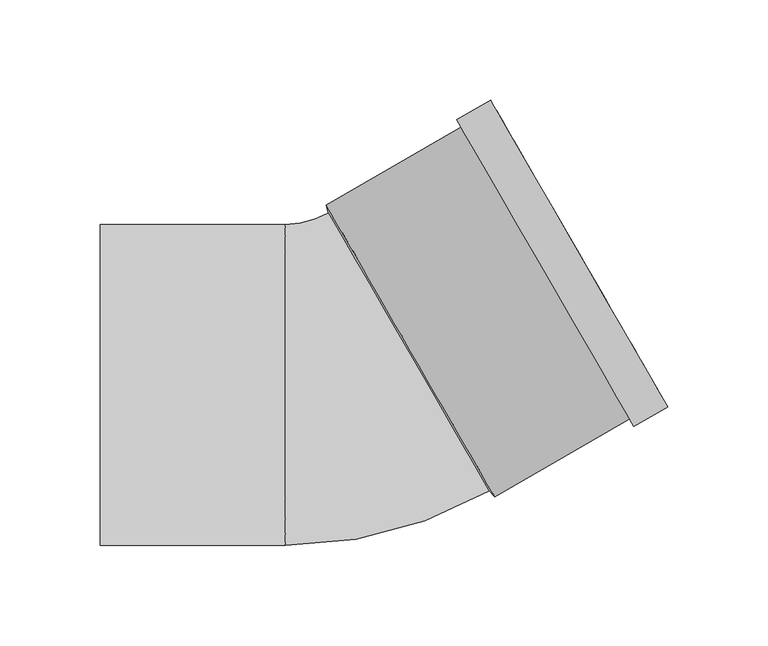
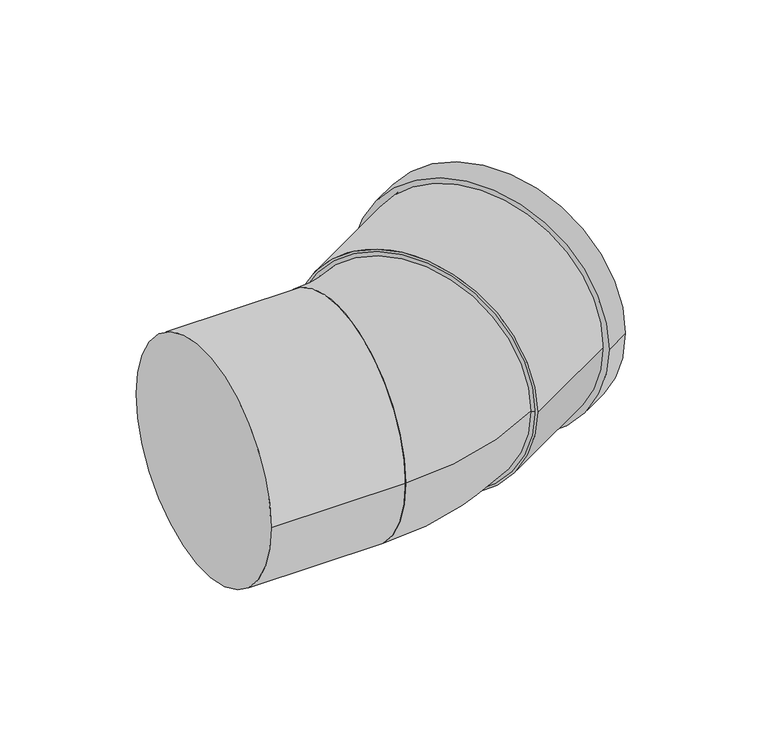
"""IFC4 building model written with IfcOpenShell, lengths in millimetres: pipe fitting geometry, Superdrain SKB Bend : Superdrain SKB Bend."""

import ifcopenshell
import ifcopenshell.guid

model = None  # the IFC model being written
_history = None  # IfcOwnerHistory: only IFC2X3 demands one
_inside = {}  # id of a spatial element -> (the spatial element, [elements in it])
_under = {}  # id of a project, library or spatial element -> (it, [spatial elements below it])
_declared = {}  # id of a project -> (the project, [libraries it declares])
_typed = {}  # id of a type object -> (the type object, [elements of that type])
_made_of = {}  # id of a material, layer set ... -> (it, [elements and type objects made of it])


def new_model(schema):
    """Start an empty IFC model of exactly this schema.

    Asked for "IFC4X3", IfcOpenShell would pick the latest addendum, in which some entities
    have other attributes; the version numbers below select the first issue.
    IFC2X3 requires an IfcOwnerHistory on every rooted entity: one is made here for all.
    """
    global model, _history
    if schema == "IFC4X3":
        model = ifcopenshell.file(schema_version=(4, 3, 0, 0))
    else:
        model = ifcopenshell.file(schema=schema)
    _inside.clear()
    _under.clear()
    _declared.clear()
    _typed.clear()
    _made_of.clear()
    _history = None
    if model.schema == "IFC2X3":
        org = make("IfcOrganization", Name="unknown")
        user = make(
            "IfcPersonAndOrganization",
            ThePerson=make("IfcPerson", FamilyName="unknown"),
            TheOrganization=org,
        )
        app = make(
            "IfcApplication",
            ApplicationDeveloper=org,
            Version="unknown",
            ApplicationFullName="unknown",
            ApplicationIdentifier="unknown",
        )
        _history = make(
            "IfcOwnerHistory",
            OwningUser=user,
            OwningApplication=app,
            ChangeAction="ADDED",
            CreationDate=0,
        )
    return model


def make(cls, **values):
    """One entity of the class cls with the attributes given. An attribute that is None is left unset."""
    return model.create_entity(
        cls, **{name: value for name, value in values.items() if value is not None}
    )


def rooted(cls, **values):
    """An entity with a GlobalId (a new one), such as an element, a storey or a relation."""
    return make(cls, GlobalId=ifcopenshell.guid.new(), OwnerHistory=_history, **values)


def si_unit(unit_type, name, prefix=None):
    """IfcSIUnit, for example si_unit("LENGTHUNIT", "METRE", prefix="MILLI")."""
    return make("IfcSIUnit", UnitType=unit_type, Prefix=prefix, Name=name)


def assignment(units):
    """IfcUnitAssignment: the units of a project."""
    return None if units is None else make("IfcUnitAssignment", Units=units)


def point(xyz):
    """IfcCartesianPoint."""
    return None if xyz is None else make("IfcCartesianPoint", Coordinates=xyz)


def direction(xyz):
    """IfcDirection."""
    return None if xyz is None else make("IfcDirection", DirectionRatios=xyz)


def frame(location, z_axis=None, x_axis=None):
    """IfcAxis2Placement3D, a coordinate frame: its origin and axes. An axis left out is left unset."""
    return make(
        "IfcAxis2Placement3D",
        Location=point(location),
        Axis=direction(z_axis),
        RefDirection=direction(x_axis),
    )


def frame_2d(location, x_axis=None):
    """IfcAxis2Placement2D, a coordinate frame in the plane: its origin and x axis."""
    return make(
        "IfcAxis2Placement2D", Location=point(location), RefDirection=direction(x_axis)
    )


def origin():
    """The frame at (0, 0, 0) with its axes left unset."""
    return frame((0.0, 0.0, 0.0))


def origin_2d():
    """The frame at (0, 0) in the plane with its x axis left unset."""
    return frame_2d((0.0, 0.0))


def place(relative_to, where):
    """IfcLocalPlacement: puts the frame where relative to a parent placement (None: the world)."""
    return make(
        "IfcLocalPlacement", PlacementRelTo=relative_to, RelativePlacement=where
    )


def context(
    kind, dimensions, precision=None, world=None, true_north=None, identifier=None
):
    """IfcGeometricRepresentationContext, for example the 3D "Model" context."""
    return make(
        "IfcGeometricRepresentationContext",
        ContextIdentifier=identifier,
        ContextType=kind,
        CoordinateSpaceDimension=dimensions,
        Precision=precision,
        WorldCoordinateSystem=world,
        TrueNorth=true_north,
    )


def project(units=None, contexts=None):
    """IfcProject with its units and contexts."""
    return rooted(
        "IfcProject",
        Name="project",
        RepresentationContexts=contexts,
        UnitsInContext=assignment(units),
    )


def spatial(cls, under=None, at=None, **own):
    """A site, building, storey or space (cls), placed at a placement, below another one or the project."""
    s = rooted(cls, ObjectPlacement=at, **own)
    if under is not None:
        _under.setdefault(under.id(), (under, []))[1].append(s)
    return s


def polyline(points):
    """IfcPolyline through the points."""
    return make("IfcPolyline", Points=[point(p) for p in points])


def circle_curve(where, radius):
    """IfcCircle in the frame where."""
    return make("IfcCircle", Position=where, Radius=radius)


def ellipse_curve(where, semi_axis1, semi_axis2):
    """IfcEllipse in the frame where."""
    return make(
        "IfcEllipse", Position=where, SemiAxis1=semi_axis1, SemiAxis2=semi_axis2
    )


def trimmed(basis, trim1, trim2, sense, master):
    """IfcTrimmedCurve: the piece of a basis curve between two trims."""
    return make(
        "IfcTrimmedCurve",
        BasisCurve=basis,
        Trim1=trim1,
        Trim2=trim2,
        SenseAgreement=sense,
        MasterRepresentation=master,
    )


def segment(curve, same_sense, transition):
    """IfcCompositeCurveSegment."""
    return make(
        "IfcCompositeCurveSegment",
        Transition=transition,
        SameSense=same_sense,
        ParentCurve=curve,
    )


def composite_curve(segments, self_intersect=None):
    """IfcCompositeCurve: segments joined end to end."""
    return make("IfcCompositeCurve", Segments=segments, SelfIntersect=self_intersect)


def outline(outer, holes=None, kind="AREA"):
    """IfcArbitraryClosedProfileDef: a profile drawn as a closed curve; with holes, ...WithVoids."""
    if holes is None:
        return make("IfcArbitraryClosedProfileDef", ProfileType=kind, OuterCurve=outer)
    return make(
        "IfcArbitraryProfileDefWithVoids",
        ProfileType=kind,
        OuterCurve=outer,
        InnerCurves=holes,
    )


def extrude(swept, where, along, depth):
    """IfcExtrudedAreaSolid: the profile swept, set in the frame where, extruded along a direction by depth."""
    return make(
        "IfcExtrudedAreaSolid",
        SweptArea=swept,
        Position=where,
        ExtrudedDirection=direction(along),
        Depth=depth,
    )


def shape(context_of_items, identifier, shape_type, items):
    """IfcShapeRepresentation: the items that make up one representation, for example the "Body"."""
    return make(
        "IfcShapeRepresentation",
        ContextOfItems=context_of_items,
        RepresentationIdentifier=identifier,
        RepresentationType=shape_type,
        Items=items,
    )


def source(mapping_origin, context_of_items, identifier, shape_type, items):
    """IfcRepresentationMap: a shape defined once, which mapped items show again and again."""
    return make(
        "IfcRepresentationMap",
        MappingOrigin=mapping_origin,
        MappedRepresentation=shape(context_of_items, identifier, shape_type, items),
    )


def transform(
    local_origin,
    x_axis=None,
    y_axis=None,
    z_axis=None,
    scale=None,
    scale2=None,
    scale3=None,
    uniform=True,
):
    """IfcCartesianTransformationOperator3D, or its non-uniform kind. x_axis, y_axis, z_axis: its Axis1, 2, 3."""
    if uniform:
        return make(
            "IfcCartesianTransformationOperator3D",
            Axis1=direction(x_axis),
            Axis2=direction(y_axis),
            LocalOrigin=point(local_origin),
            Scale=scale,
            Axis3=direction(z_axis),
        )
    return make(
        "IfcCartesianTransformationOperator3DnonUniform",
        Axis1=direction(x_axis),
        Axis2=direction(y_axis),
        LocalOrigin=point(local_origin),
        Scale=scale,
        Axis3=direction(z_axis),
        Scale2=scale2,
        Scale3=scale3,
    )


def mapped(mapping_source, mapping_target):
    """IfcMappedItem: shows the shape of a source again, moved by a transform."""
    return make(
        "IfcMappedItem", MappingSource=mapping_source, MappingTarget=mapping_target
    )


def made_of(thing, what):
    """Note that an element or type object is made of a material, layer set ...; save() writes the relation."""
    if what is not None:
        _made_of.setdefault(what.id(), (what, []))[1].append(thing)
    return thing


def element(
    cls,
    number,
    at=None,
    inside=None,
    cuts=None,
    type_object=None,
    material=None,
    context=None,
    identifier="Body",
    shape_type=None,
    held_by="IfcProductDefinitionShape",
    body=None,
    shapes=None,
    **own,
):
    """One element of the class cls, such as IfcWall. Its Tag is "e" and its number.

    at: its placement. inside: the storey or other place that contains it. cuts: it is an
    opening in that element (IfcRelVoidsElement). A single representation is given by context,
    identifier, shape_type and body (its items); several are given by shapes. held_by: the class
    of the entity that holds the representations. save() writes the other relations.
    """
    e = rooted(cls, Tag="e%d" % number, ObjectPlacement=at, **own)
    if body is not None:
        shapes = [shape(context, identifier, shape_type, body)]
    if shapes is not None:
        e.Representation = make(held_by, Representations=shapes)
    if inside is not None:
        _inside.setdefault(inside.id(), (inside, []))[1].append(e)
    if cuts is not None:
        rooted(
            "IfcRelVoidsElement", RelatingBuildingElement=cuts, RelatedOpeningElement=e
        )
    if type_object is not None:
        _typed.setdefault(type_object.id(), (type_object, []))[1].append(e)
    return made_of(e, material)


def aggregate(whole, parts):
    """IfcRelAggregates: a whole, such as a stair, and the parts it consists of."""
    return rooted("IfcRelAggregates", RelatingObject=whole, RelatedObjects=parts)


def save(model, path):
    """Write the relations noted so far, then the file.

    IfcRelAggregates (storeys below a building ...), IfcRelContainedInSpatialStructure (elements
    in a storey), IfcRelDefinesByType, IfcRelAssociatesMaterial and IfcRelDeclares: one each for
    every whole, place, type object, material and project.
    """
    for whole, parts in _under.values():
        aggregate(whole, parts)
    for where, things in _inside.values():
        rooted(
            "IfcRelContainedInSpatialStructure",
            RelatedElements=things,
            RelatingStructure=where,
        )
    for kind, things in _typed.values():
        rooted("IfcRelDefinesByType", RelatedObjects=things, RelatingType=kind)
    for what, things in _made_of.values():
        rooted("IfcRelAssociatesMaterial", RelatedObjects=things, RelatingMaterial=what)
    for by, libraries in _declared.values():
        rooted("IfcRelDeclares", RelatingContext=by, RelatedDefinitions=libraries)
    model.write(path)


def plane_surface(at):
    """IfcPlane: the flat surface through the origin of the frame at, square to its z axis."""
    return make("IfcPlane", Position=at)


def revolved_surface(curve, axis_point, axis_direction):
    """IfcSurfaceOfRevolution: the curve turned about the line through axis_point along axis_direction."""
    return make(
        "IfcSurfaceOfRevolution",
        SweptCurve=make("IfcArbitraryOpenProfileDef", ProfileType="CURVE", Curve=curve),
        AxisPosition=make("IfcAxis1Placement", Location=point(axis_point), Axis=direction(axis_direction)),
    )


def advanced_brep(points, edges, surfaces, faces):
    """IfcAdvancedBrep: a solid bounded by faces that lie on surfaces and meet in shared edges.

    An edge is (start, end): straight between two places in points (the first is 0);
    or (start, end, curve); or (start, end, curve, False) where it runs against its curve.
    A face is (place in surfaces, loops), or (place, loops, False) where it looks against
    its surface's normal. A loop lists edges by number (the first is 1), with a minus sign
    where the edge is run from its end to its start. The first loop is the outer one.
    """
    corners = [point(p) for p in points]
    vertices = [make("IfcVertexPoint", VertexGeometry=c) for c in corners]
    made = []
    for start, end, *more in edges:
        made.append(
            make(
                "IfcEdgeCurve",
                EdgeStart=vertices[start],
                EdgeEnd=vertices[end],
                EdgeGeometry=more[0] if more else make("IfcPolyline", Points=[corners[start], corners[end]]),
                SameSense=more[1] if len(more) > 1 else True,
            )
        )
    hull = []
    for where, loops, *sense in faces:
        bounds = []
        for j, loop in enumerate(loops):
            ring = [make("IfcOrientedEdge", EdgeElement=made[abs(k) - 1], Orientation=k > 0) for k in loop]
            bounds.append(
                make(
                    "IfcFaceOuterBound" if j == 0 else "IfcFaceBound",
                    Bound=make("IfcEdgeLoop", EdgeList=ring),
                    Orientation=True,
                )
            )
        hull.append(make("IfcAdvancedFace", Bounds=bounds, FaceSurface=surfaces[where], SameSense=sense[0] if sense else True))
    return make("IfcAdvancedBrep", Outer=make("IfcClosedShell", CfsFaces=hull))


def pipe_fitting_fd9ef2f7(model_context):
    return source(origin(), model_context, "Body", "SolidModel", [
        advanced_brep(
        [(68.5788383, -52.7820323, 0.0), (-11.4211617, 85.7820323, 0.0), (-33.0, -80.0, 0.0), (-33.0, 80.0, 0.0)],
        [
            (0, 1, circle_curve(frame((28.5788383, 16.5, 0.0), z_axis=(0.8660254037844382, 0.5000000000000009, 0.0), x_axis=(-0.5000000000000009, 0.8660254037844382, 0.0)), 80.0)),
            (1, 0, circle_curve(frame((28.5788383, 16.5, 0.0), z_axis=(0.8660254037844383, 0.5000000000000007, 0.0), x_axis=(-0.5000000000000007, 0.8660254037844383, 0.0)), 80.0)),
            (2, 3, circle_curve(frame((-33.0, 0.0, 0.0), z_axis=(-1.0, 0.0, 0.0), x_axis=(0.0, 1.0, 0.0)), 80.0)),
            (3, 2, circle_curve(frame((-33.0, 0.0, 0.0), z_axis=(-1.0, 0.0, 0.0), x_axis=(0.0, 1.0, 0.0)), 80.0)),
            (3, 1, circle_curve(frame((-33.0, 123.1576766, 0.0), z_axis=(0.0, 0.0, 1.0), x_axis=(1.0, 0.0, 0.0)), 43.1576766)),
            (0, 2, circle_curve(frame((-33.0, 123.1576766, 0.0), z_axis=(0.0, 0.0, -1.0), x_axis=(1.0, 0.0, 0.0)), 203.1576766)),
        ],
        [
            plane_surface(frame((28.5788383, 16.5, 0.0), z_axis=(0.8660254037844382, 0.5000000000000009, 0.0), x_axis=(0.0, 0.0, -1.0))),
            plane_surface(frame((-33.0, 0.0, 0.0), z_axis=(-1.0, 0.0, 0.0), x_axis=(0.0, 0.0, -1.0))),
            revolved_surface(trimmed(ellipse_curve(frame((90.1576766, 123.1576766, 0.0), z_axis=(0.0, -1.0, 0.0), x_axis=(-1.0, 0.0, 0.0)), 80.0, 80.0), [point((10.1576766, 123.1576766, 0.0))], [point((170.1576766, 123.1576766, 0.0))], True, "CARTESIAN"), (-33.0, 123.1576766, 0.0), (0.0, 0.0, 1.0)),
            revolved_surface(trimmed(ellipse_curve(frame((90.1576766, 123.1576766, 0.0), z_axis=(0.0, -1.0, 0.0), x_axis=(-1.0, 0.0, 0.0)), 80.0, 80.0), [point((170.1576766, 123.1576766, 0.0))], [point((10.1576766, 123.1576766, 0.0))], True, "CARTESIAN"), (-33.0, 123.1576766, 0.0), (0.0, 0.0, 1.0)),
        ],
        [
            (0, [[1, 2]]),
            (1, [[3, 4]]),
            (2, [[-4, 5, -1, 6]]),
            (3, [[-3, -6, -2, -5]]),
        ],
    ),
        extrude(outline(composite_curve([segment(trimmed(circle_curve(origin_2d(), 84.0), [point((0.0, 84.0))], [point((0.0, -84.0))], False, "CARTESIAN"), True, "CONTINUOUS"), segment(trimmed(circle_curve(origin_2d(), 84.0), [point((0.0, -84.0))], [point((0.0, 84.0))], False, "CARTESIAN"), True, "CONTINUOUS")], self_intersect=False), holes=[composite_curve([segment(trimmed(circle_curve(origin_2d(), 80.0), [point((0.0, 80.0))], [point((0.0, -80.0))], True, "CARTESIAN"), True, "CONTINUOUS"), segment(trimmed(circle_curve(origin_2d(), 80.0), [point((0.0, -80.0))], [point((0.0, 80.0))], True, "CARTESIAN"), True, "CONTINUOUS")], self_intersect=False)]), frame((29.4448637, 17.0, 0.0), z_axis=(0.866025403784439, 0.4999999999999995, 0.0), x_axis=(0.0, 0.0, 1.0)), (0.0, 0.0, 1.0), 97.0),
        extrude(outline(composite_curve([segment(trimmed(circle_curve(origin_2d(), 88.2), [point((0.0, -88.2))], [point((0.0, 88.2))], False, "CARTESIAN"), True, "CONTINUOUS"), segment(trimmed(circle_curve(origin_2d(), 88.2), [point((0.0, 88.2))], [point((0.0, -88.2))], False, "CARTESIAN"), True, "CONTINUOUS")], self_intersect=False), holes=[composite_curve([segment(trimmed(circle_curve(origin_2d(), 80.0), [point((0.0, -80.0))], [point((0.0, 80.0))], True, "CARTESIAN"), True, "CONTINUOUS"), segment(trimmed(circle_curve(origin_2d(), 80.0), [point((0.0, 80.0))], [point((0.0, -80.0))], True, "CARTESIAN"), True, "CONTINUOUS")], self_intersect=False)]), frame((96.6484351, 55.8, 0.0), z_axis=(0.866025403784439, 0.4999999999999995, 0.0), x_axis=(0.0, 0.0, 1.0)), (0.0, 0.0, 1.0), 19.4),
        advanced_brep(
        [(71.4448637, -55.7461339, 0.0), (-12.5551363, 89.7461339, 0.0), (68.5788383, -52.7820323, 0.0), (-11.4211617, 85.7820323, 0.0)],
        [
            (0, 1, circle_curve(frame((29.4448637, 17.0, 0.0), z_axis=(0.8660254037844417, 0.4999999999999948, 0.0), x_axis=(0.4999999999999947, -0.8660254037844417, 0.0)), 84.0)),
            (1, 0, circle_curve(frame((29.4448637, 17.0, 0.0), z_axis=(0.8660254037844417, 0.4999999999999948, 0.0), x_axis=(-0.4999999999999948, 0.8660254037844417, 0.0)), 84.0)),
            (2, 3, circle_curve(frame((28.5788383, 16.5, 0.0), z_axis=(-0.8660254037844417, -0.4999999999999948, 0.0), x_axis=(-0.4999999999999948, 0.8660254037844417, 0.0)), 80.0)),
            (3, 2, circle_curve(frame((28.5788383, 16.5, 0.0), z_axis=(-0.8660254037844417, -0.4999999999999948, 0.0), x_axis=(0.4999999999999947, -0.8660254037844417, 0.0)), 80.0)),
            (3, 1),
            (0, 2),
        ],
        [
            plane_surface(frame((29.4448637, 17.0, 0.0), z_axis=(0.8660254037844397, 0.4999999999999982, 0.0), x_axis=(0.0, 0.0, -1.0))),
            plane_surface(frame((28.5788383, 16.5, 0.0), z_axis=(-0.8660254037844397, -0.4999999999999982, 0.0), x_axis=(0.0, 0.0, -1.0))),
            revolved_surface(polyline([(-11.421161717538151, 85.78203233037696, 0.0), (-12.555136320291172, 89.74613397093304, 0.0)]), (11.2583302, 6.5, 0.0), (0.8660254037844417, 0.4999999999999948, 0.0)),
            revolved_surface(polyline([(68.57883827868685, -52.78203226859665, 0.0), (71.4448637, -55.7461339, 0.0)]), (11.2583302, 6.5, 0.0), (0.8660254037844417, 0.4999999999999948, 0.0)),
        ],
        [
            (0, [[1, 2]]),
            (1, [[3, 4]]),
            (2, [[-4, 5, -1, 6]]),
            (3, [[-3, -6, -2, -5]]),
        ],
    ),
        extrude(outline(composite_curve([segment(trimmed(circle_curve(origin_2d(), 80.0), [point((-80.0, 0.0))], [point((80.0, 0.0))], False, "CARTESIAN"), True, "CONTINUOUS"), segment(trimmed(circle_curve(origin_2d(), 80.0), [point((80.0, 0.0))], [point((-80.0, 0.0))], False, "CARTESIAN"), True, "CONTINUOUS")], self_intersect=False)), frame((-125.0, 0.0, 0.0), z_axis=(1.0, 0.0, 0.0), x_axis=(0.0, 1.0, 0.0)), (0.0, 0.0, 1.0), 92.0),
    ])


if __name__ == "__main__":
    model = new_model("IFC4")
    model_context = context("Model", 3, world=origin())
    ifc_project = project(units=[si_unit("LENGTHUNIT", "METRE", prefix="MILLI")], contexts=[model_context])
    site = spatial("IfcSite", under=ifc_project)
    building = spatial("IfcBuilding", under=site)
    placement = place(None, origin())
    pipe_fitting_shape = pipe_fitting_fd9ef2f7(model_context)
    element("IfcPipeFitting", 1, ObjectType="Superdrain SKB Bend : Superdrain SKB Bend", at=placement, inside=building, context=model_context, shape_type="MappedRepresentation", body=[
        mapped(pipe_fitting_shape, transform((0.0, 0.0, 0.0), x_axis=(1.0, 0.0, 0.0), y_axis=(0.0, 1.0, 0.0), z_axis=(0.0, 0.0, 1.0))),
    ])
    save(model, "model.ifc")
